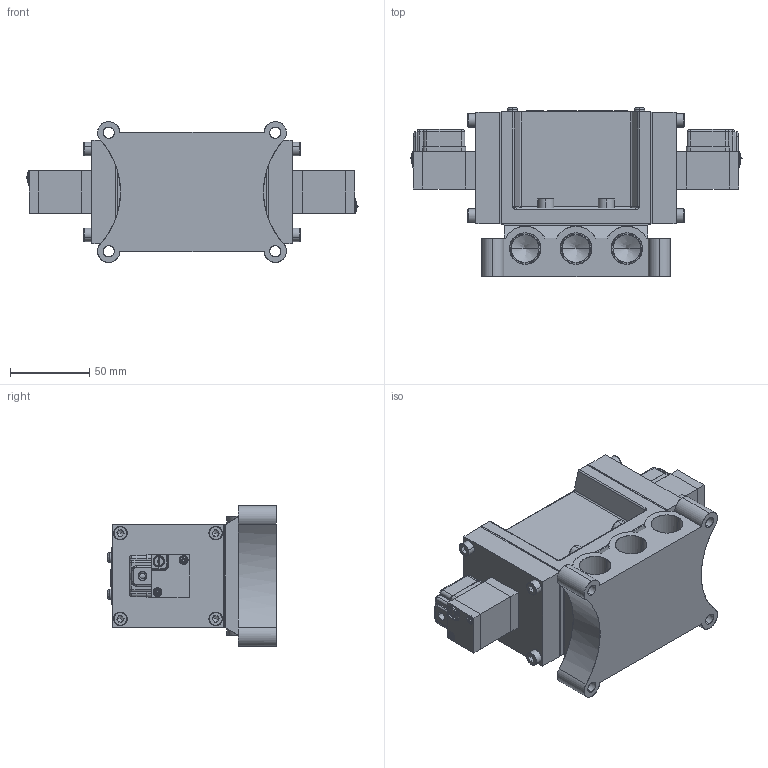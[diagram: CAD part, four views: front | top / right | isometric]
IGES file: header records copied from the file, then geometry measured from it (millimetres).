
Start section: SolidWorks IGES file using analytic representation for surfaces
Global section: file name: C:\Users\Toshiba\Desktop\PMD2410#-04-#G#.IGS; native system: SolidWorks 2014; preprocessor: SolidWorks 2014; author: Toshiba; date: 160121.094553; units: millimetre
Bounding box: 208.95 x 106.35 x 88.61 mm (x, y, z)
Surface area: 174307.6 mm2 (no closed solid volume)
Topology: 0 solids, 0 shells, 1126 faces, 11970 edges, 11914 vertices
Faces by surface type: bspline 692, revolution 434
